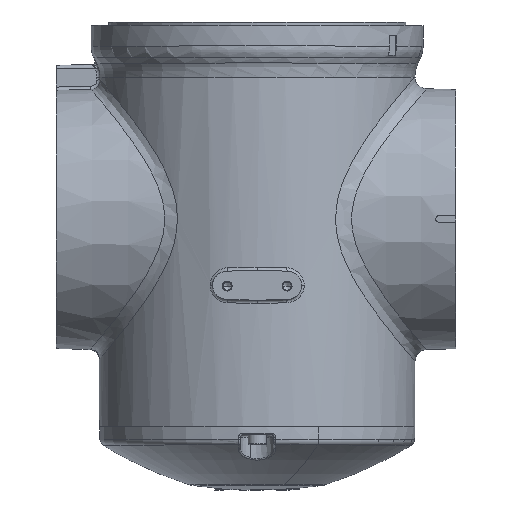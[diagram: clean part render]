
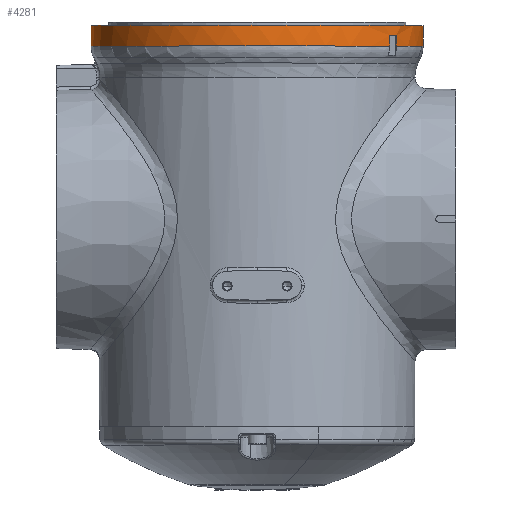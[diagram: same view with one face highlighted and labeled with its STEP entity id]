
A CAD part, top view. The second image highlights one B-rep face of the part: STEP entity #4281.
In plain terms, the highlighted cylindrical face has radius 50 mm (diameter 100 mm), a partial arc.
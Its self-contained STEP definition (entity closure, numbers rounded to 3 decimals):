
#291 = DIRECTION ( 'NONE',  ( -1., 0., 0. ) ) ;
#378 = DIRECTION ( 'NONE',  ( 1., 0., 0. ) ) ;
#452 = CARTESIAN_POINT ( 'NONE',  ( 50., 52.074, 375. ) ) ;
#497 = EDGE_LOOP ( 'NONE', ( #16134, #5040, #1883, #10070, #11642, #12856, #3600, #4374 ) ) ;
#1142 = VECTOR ( 'NONE', #2244, 1000. ) ;
#1883 = ORIENTED_EDGE ( 'NONE', *, *, #15307, .T. ) ;
#2229 = AXIS2_PLACEMENT_3D ( 'NONE', #5863, #3298, #3208 ) ;
#2244 = DIRECTION ( 'NONE',  ( 0., 1., 0. ) ) ;
#2271 = DIRECTION ( 'NONE',  ( 0., 1., 0. ) ) ;
#2771 = DIRECTION ( 'NONE',  ( 0., 1., 0. ) ) ;
#2973 = VERTEX_POINT ( 'NONE', #13071 ) ;
#3208 = DIRECTION ( 'NONE',  ( -1., 0., 0. ) ) ;
#3298 = DIRECTION ( 'NONE',  ( 0., 1., 0. ) ) ;
#3600 = ORIENTED_EDGE ( 'NONE', *, *, #16264, .T. ) ;
#3632 = CARTESIAN_POINT ( 'NONE',  ( -50., -75.761, 375. ) ) ;
#3741 = LINE ( 'NONE', #4814, #1142 ) ;
#3889 = CARTESIAN_POINT ( 'NONE',  ( 39.929, 52.074, 405.095 ) ) ;
#4017 = CARTESIAN_POINT ( 'NONE',  ( 41.936, 55.3, 402.228 ) ) ;
#4272 = CYLINDRICAL_SURFACE ( 'NONE', #12222, 50. ) ;
#4281 = ADVANCED_FACE ( 'NONE', ( #16692 ), #4272, .T. ) ;
#4374 = ORIENTED_EDGE ( 'NONE', *, *, #10166, .F. ) ;
#4814 = CARTESIAN_POINT ( 'NONE',  ( 39.929, -75.761, 405.095 ) ) ;
#5040 = ORIENTED_EDGE ( 'NONE', *, *, #8619, .T. ) ;
#5060 = CIRCLE ( 'NONE', #2229, 50. ) ;
#5863 = CARTESIAN_POINT ( 'NONE',  ( 0., 55.3, 375. ) ) ;
#6035 = DIRECTION ( 'NONE',  ( 0., 1., 0. ) ) ;
#6103 = CIRCLE ( 'NONE', #9762, 50. ) ;
#6413 = CARTESIAN_POINT ( 'NONE',  ( 41.936, 52.074, 402.228 ) ) ;
#6441 = AXIS2_PLACEMENT_3D ( 'NONE', #13957, #2271, #16761 ) ;
#6518 = CARTESIAN_POINT ( 'NONE',  ( 50., -75.761, 375. ) ) ;
#7090 = DIRECTION ( 'NONE',  ( 0., 1., 0. ) ) ;
#7229 = EDGE_CURVE ( 'NONE', #13998, #7980, #6103, .T. ) ;
#7752 = VECTOR ( 'NONE', #9964, 1000. ) ;
#7980 = VERTEX_POINT ( 'NONE', #452 ) ;
#8420 = DIRECTION ( 'NONE',  ( 0., 1., 0. ) ) ;
#8619 = EDGE_CURVE ( 'NONE', #2973, #11691, #15113, .T. ) ;
#8701 = CARTESIAN_POINT ( 'NONE',  ( 0., 52.074, 375. ) ) ;
#8726 = CARTESIAN_POINT ( 'NONE',  ( 41.936, -75.761, 402.228 ) ) ;
#8978 = EDGE_CURVE ( 'NONE', #10160, #14268, #5060, .T. ) ;
#9102 = VERTEX_POINT ( 'NONE', #12209 ) ;
#9277 = CARTESIAN_POINT ( 'NONE',  ( 50., 58.3, 375. ) ) ;
#9644 = VECTOR ( 'NONE', #6035, 1000. ) ;
#9762 = AXIS2_PLACEMENT_3D ( 'NONE', #13720, #2771, #291 ) ;
#9964 = DIRECTION ( 'NONE',  ( 0., -1., 0. ) ) ;
#10070 = ORIENTED_EDGE ( 'NONE', *, *, #8978, .T. ) ;
#10160 = VERTEX_POINT ( 'NONE', #15256 ) ;
#10166 = EDGE_CURVE ( 'NONE', #9102, #16368, #14345, .T. ) ;
#11642 = ORIENTED_EDGE ( 'NONE', *, *, #12851, .T. ) ;
#11691 = VERTEX_POINT ( 'NONE', #3889 ) ;
#12209 = CARTESIAN_POINT ( 'NONE',  ( -50., 58.3, 375. ) ) ;
#12222 = AXIS2_PLACEMENT_3D ( 'NONE', #12473, #8420, #378 ) ;
#12473 = CARTESIAN_POINT ( 'NONE',  ( 0., -75.761, 375. ) ) ;
#12484 = DIRECTION ( 'NONE',  ( -1., 0., 0. ) ) ;
#12733 = LINE ( 'NONE', #3632, #9644 ) ;
#12851 = EDGE_CURVE ( 'NONE', #14268, #13998, #15415, .T. ) ;
#12856 = ORIENTED_EDGE ( 'NONE', *, *, #7229, .T. ) ;
#13023 = VECTOR ( 'NONE', #17271, 1000. ) ;
#13071 = CARTESIAN_POINT ( 'NONE',  ( -50., 52.074, 375. ) ) ;
#13239 = LINE ( 'NONE', #6518, #13023 ) ;
#13720 = CARTESIAN_POINT ( 'NONE',  ( 0., 52.074, 375. ) ) ;
#13957 = CARTESIAN_POINT ( 'NONE',  ( 0., 58.3, 375. ) ) ;
#13998 = VERTEX_POINT ( 'NONE', #6413 ) ;
#14268 = VERTEX_POINT ( 'NONE', #4017 ) ;
#14345 = CIRCLE ( 'NONE', #6441, 50. ) ;
#15113 = CIRCLE ( 'NONE', #17363, 50. ) ;
#15256 = CARTESIAN_POINT ( 'NONE',  ( 39.929, 55.3, 405.095 ) ) ;
#15307 = EDGE_CURVE ( 'NONE', #11691, #10160, #3741, .T. ) ;
#15415 = LINE ( 'NONE', #8726, #7752 ) ;
#15803 = EDGE_CURVE ( 'NONE', #2973, #9102, #12733, .T. ) ;
#16134 = ORIENTED_EDGE ( 'NONE', *, *, #15803, .F. ) ;
#16264 = EDGE_CURVE ( 'NONE', #7980, #16368, #13239, .T. ) ;
#16368 = VERTEX_POINT ( 'NONE', #9277 ) ;
#16692 = FACE_OUTER_BOUND ( 'NONE', #497, .T. ) ;
#16761 = DIRECTION ( 'NONE',  ( -1., 0., 0. ) ) ;
#17271 = DIRECTION ( 'NONE',  ( 0., 1., 0. ) ) ;
#17363 = AXIS2_PLACEMENT_3D ( 'NONE', #8701, #7090, #12484 ) ;
